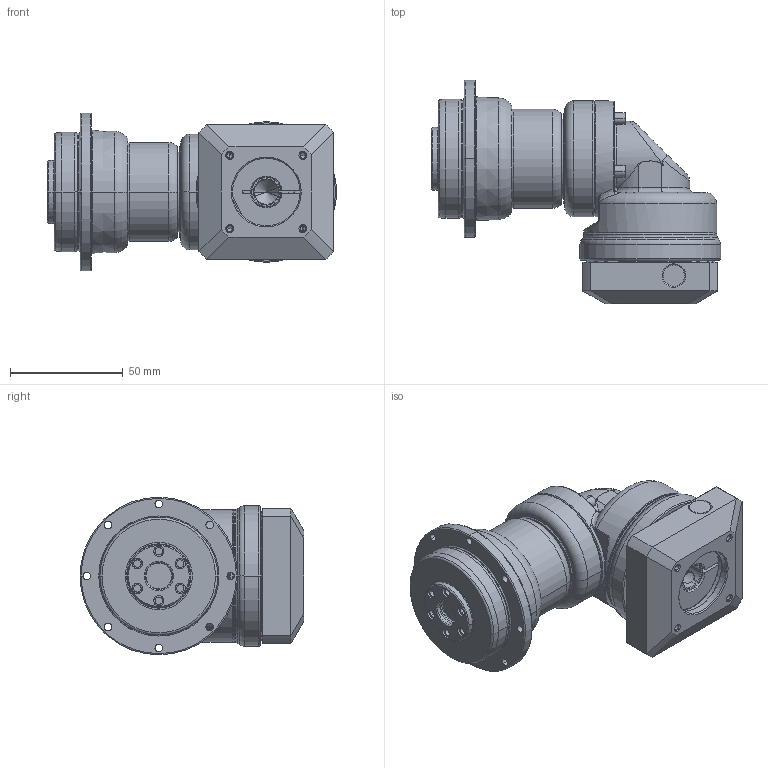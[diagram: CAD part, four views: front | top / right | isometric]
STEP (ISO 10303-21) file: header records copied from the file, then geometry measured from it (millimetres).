
FILE_DESCRIPTION((''),'2;1');
FILE_NAME('PDR053_2ST_11-P0411200101_ASM','2016-06-06T',('d01943'),(''),'PRO/ENGINEER BY PARAMETRIC TECHNOLOGY CORPORATION, 2008410','PRO/ENGINEER BY PARAMETRIC TECHNOLOGY CORPORATION, 2008410','');
FILE_SCHEMA(('CONFIG_CONTROL_DESIGN'));
Length unit declared in the file: millimetre
Products named in the file (10): P1355100001; P0367100001; P0275100001; P1349100001; P1017100001; P1350100101; P0411200101; P0503200005; P0713100101; PDR053_2ST_11-P0411200101_ASM
Assembly tree (9 placements, depth 2):
  PDR053_2ST_11-P0411200101_ASM
    P1355100001
    P0367100001
    P0275100001
    P1349100001
    P1017100001
    P1350100101
    P0411200101
    P0503200005
    P0713100101
Bounding box: 128.55 x 99.5 x 70 mm (x, y, z)
Volume: 284537.3 mm3; surface area: 75003.1 mm2
Topology: 9 solids, 9 shells, 521 faces, 1175 edges, 692 vertices
Faces by surface type: cylinder 173, cone 142, torus 88, plane 87, bspline 31
Entity records: 17220 total; most frequent: CARTESIAN_POINT 5373, DIRECTION 2632, ORIENTED_EDGE 2290, EDGE_CURVE 1145, AXIS2_PLACEMENT_3D 1129, VERTEX_POINT 692, CIRCLE 620, EDGE_LOOP 611
